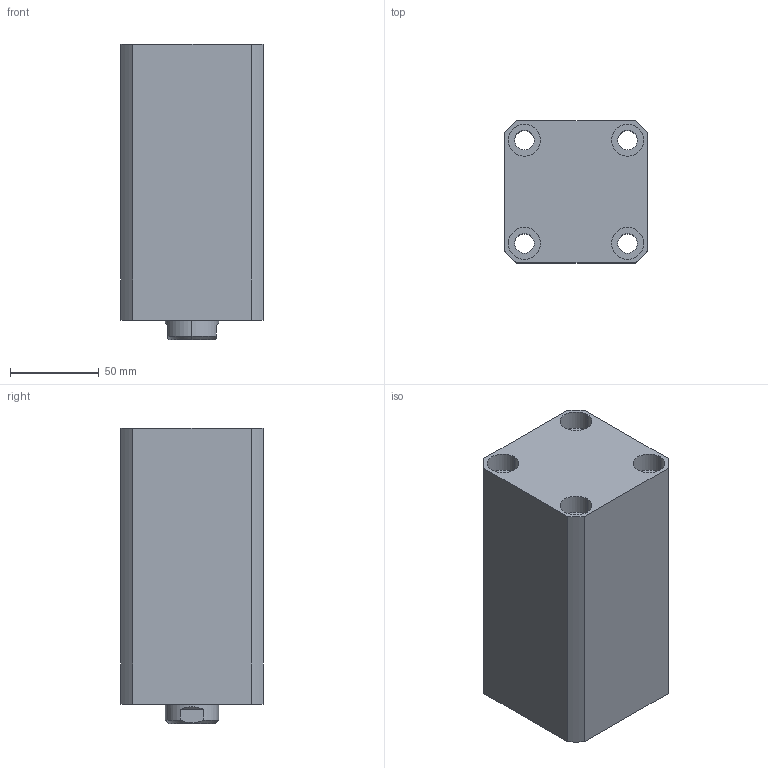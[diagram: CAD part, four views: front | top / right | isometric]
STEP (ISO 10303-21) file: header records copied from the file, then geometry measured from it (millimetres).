
FILE_DESCRIPTION (( 'STEP AP203' ), '1' );
FILE_NAME ('CHTB-SDMA50-95N.STEP', '2018-05-19T02:58:20', ( '' ), ( '' ), 'SwSTEP 2.0', 'SolidWorks 2015', '' );
FILE_SCHEMA (( 'CONFIG_CONTROL_DESIGN' ));
Length unit declared in the file: millimetre
Products named in the file (5): 活塞杆SDMA50-95N; CHTM-SDMA50QG; 掛极SDMA50-95N; CHTB-SDMA50-95N; M6
Assembly tree (5 placements, depth 2):
  CHTB-SDMA50-95N
    掛极SDMA50-95N
    活塞杆SDMA50-95N
    CHTM-SDMA50QG
    M6  x2
Bounding box: 80 x 80 x 166 mm (x, y, z)
Volume: 779544.8 mm3; surface area: 145406.9 mm2
Topology: 5 solids, 5 shells, 270 faces, 703 edges, 464 vertices
Faces by surface type: cylinder 139, plane 58, cone 31, bspline 26, torus 16
Entity records: 14133 total; most frequent: CARTESIAN_POINT 8131, ORIENTED_EDGE 1208, DIRECTION 1054, EDGE_CURVE 604, AXIS2_PLACEMENT_3D 433, VERTEX_POINT 403, EDGE_LOOP 277, ADVANCED_FACE 235
